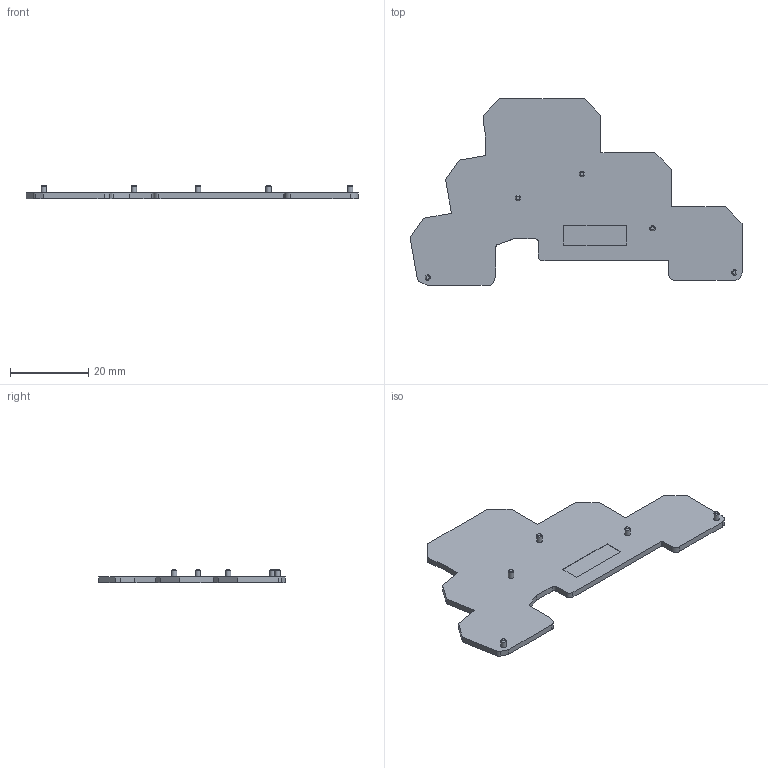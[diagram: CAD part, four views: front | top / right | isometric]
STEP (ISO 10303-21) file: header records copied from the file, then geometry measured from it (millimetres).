
FILE_DESCRIPTION(/* description */ (''),/* implementation_level */ '2;1');
FILE_NAME(/* name */ 'RBP2.5_3LA.stp',/* time_stamp */ '2017-08-14T17:17:56+08:00',/* author */ (''),/* organization */ (''),/* preprocessor_version */ 'ST-DEVELOPER v11',/* originating_system */ 'SIEMENS UGS NX 6.0',/* authorisation */ '');
FILE_SCHEMA (('CONFIG_CONTROL_DESIGN'));
Length unit declared in the file: millimetre
Products named in the file (1): RBP2.5_3LA_dwg
Bounding box: 84.75 x 47.7 x 3.5 mm (x, y, z)
Volume: 3659 mm3; surface area: 5309.7 mm2
Topology: 1 solids, 1 shells, 59 faces, 148 edges, 97 vertices
Faces by surface type: plane 41, cylinder 13, cone 5
Full cylindrical faces by diameter (mm): 1.38 x5
Entity records: 1789 total; most frequent: CARTESIAN_POINT 295, DIRECTION 289, ORIENTED_EDGE 276, EDGE_CURVE 138, LINE 107, VECTOR 107, VERTEX_POINT 97, AXIS2_PLACEMENT_3D 91
